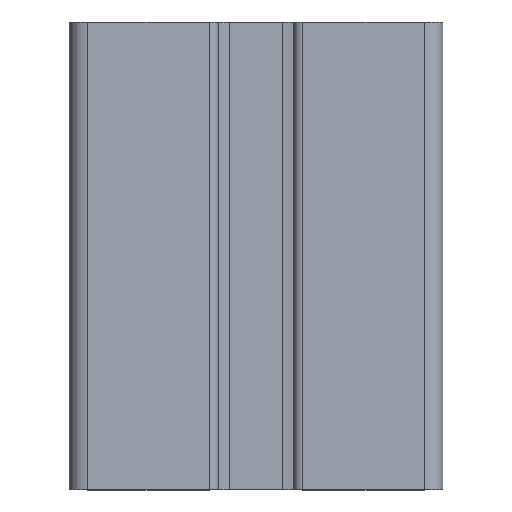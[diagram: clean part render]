
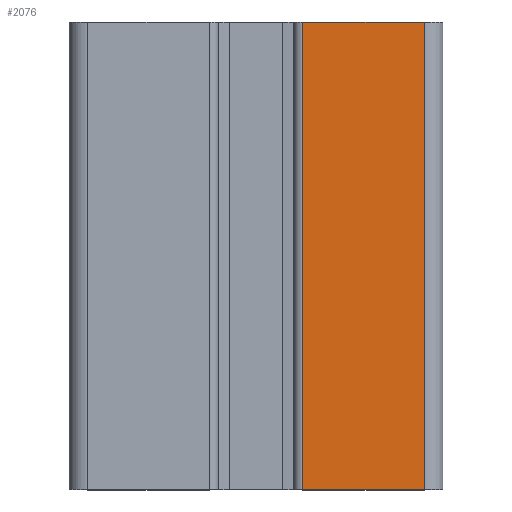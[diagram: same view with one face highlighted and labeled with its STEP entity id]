
A CAD part, top view. The second image highlights one B-rep face of the part: STEP entity #2076.
In plain terms, the highlighted planar face has unit normal (0, 0, 1).
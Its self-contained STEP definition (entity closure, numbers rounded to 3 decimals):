
#43 = EDGE_CURVE ( 'NONE', #300, #4262, #573, .T. ) ;
#84 = DIRECTION ( 'NONE',  ( 0., 1., 0. ) ) ;
#112 = CARTESIAN_POINT ( 'NONE',  ( 641.558, 276.703, 7.006 ) ) ;
#300 = VERTEX_POINT ( 'NONE', #1542 ) ;
#468 = CARTESIAN_POINT ( 'NONE',  ( 654.558, 276.703, 7.006 ) ) ;
#573 = LINE ( 'NONE', #4615, #3208 ) ;
#713 = VERTEX_POINT ( 'NONE', #1395 ) ;
#734 = AXIS2_PLACEMENT_3D ( 'NONE', #1042, #1010, #4723 ) ;
#851 = FACE_OUTER_BOUND ( 'NONE', #4133, .T. ) ;
#881 = EDGE_CURVE ( 'NONE', #713, #4356, #2639, .T. ) ;
#1010 = DIRECTION ( 'NONE',  ( 0., 0., 1. ) ) ;
#1042 = CARTESIAN_POINT ( 'NONE',  ( 641.558, 276.703, 7.006 ) ) ;
#1153 = ORIENTED_EDGE ( 'NONE', *, *, #4506, .T. ) ;
#1395 = CARTESIAN_POINT ( 'NONE',  ( 654.558, 176.703, 7.006 ) ) ;
#1542 = CARTESIAN_POINT ( 'NONE',  ( 641.558, 226.703, 7.006 ) ) ;
#1790 = CARTESIAN_POINT ( 'NONE',  ( 641.558, 176.703, 7.006 ) ) ;
#1835 = VECTOR ( 'NONE', #84, 1000. ) ;
#1958 = VECTOR ( 'NONE', #2654, 1000. ) ;
#2076 = ADVANCED_FACE ( 'NONE', ( #851 ), #2475, .T. ) ;
#2270 = DIRECTION ( 'NONE',  ( -1., 0., 0. ) ) ;
#2467 = LINE ( 'NONE', #468, #1835 ) ;
#2475 = PLANE ( 'NONE',  #734 ) ;
#2639 = LINE ( 'NONE', #4135, #4358 ) ;
#2654 = DIRECTION ( 'NONE',  ( 0., -1., 0. ) ) ;
#3208 = VECTOR ( 'NONE', #3542, 1000. ) ;
#3542 = DIRECTION ( 'NONE',  ( 1., 0., 0. ) ) ;
#3673 = ORIENTED_EDGE ( 'NONE', *, *, #43, .F. ) ;
#3787 = LINE ( 'NONE', #112, #1958 ) ;
#4038 = CARTESIAN_POINT ( 'NONE',  ( 654.558, 226.703, 7.006 ) ) ;
#4133 = EDGE_LOOP ( 'NONE', ( #1153, #3673, #4268, #4374 ) ) ;
#4135 = CARTESIAN_POINT ( 'NONE',  ( 636.539, 176.703, 7.006 ) ) ;
#4262 = VERTEX_POINT ( 'NONE', #4038 ) ;
#4268 = ORIENTED_EDGE ( 'NONE', *, *, #4452, .T. ) ;
#4356 = VERTEX_POINT ( 'NONE', #1790 ) ;
#4358 = VECTOR ( 'NONE', #2270, 1000. ) ;
#4374 = ORIENTED_EDGE ( 'NONE', *, *, #881, .F. ) ;
#4452 = EDGE_CURVE ( 'NONE', #300, #4356, #3787, .T. ) ;
#4506 = EDGE_CURVE ( 'NONE', #713, #4262, #2467, .T. ) ;
#4615 = CARTESIAN_POINT ( 'NONE',  ( 641.558, 226.703, 7.006 ) ) ;
#4723 = DIRECTION ( 'NONE',  ( 0., -1., 0. ) ) ;
